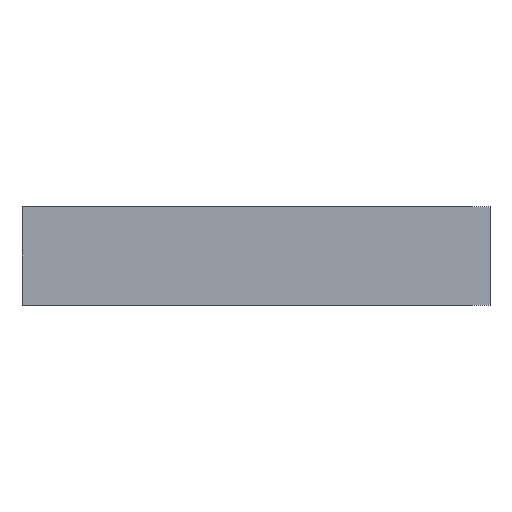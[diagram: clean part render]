
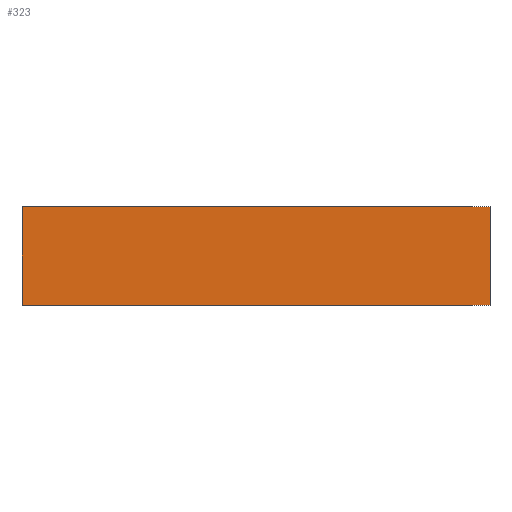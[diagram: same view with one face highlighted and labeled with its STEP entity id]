
A CAD part, front view. The second image highlights one B-rep face of the part: STEP entity #323.
In plain terms, the highlighted planar face has unit normal (0, -1, 0).
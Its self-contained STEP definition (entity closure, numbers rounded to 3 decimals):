
#9 = EDGE_CURVE ( 'NONE', #546, #581, #217, .T. ) ;
#25 = AXIS2_PLACEMENT_3D ( 'NONE', #481, #473, #471 ) ;
#34 = EDGE_CURVE ( 'NONE', #575, #561, #184, .T. ) ;
#61 = EDGE_CURVE ( 'NONE', #546, #575, #146, .T. ) ;
#66 = EDGE_CURVE ( 'NONE', #581, #561, #140, .T. ) ;
#127 = FACE_OUTER_BOUND ( 'NONE', #240, .T. ) ;
#139 = VECTOR ( 'NONE', #498, 1000. ) ;
#140 = LINE ( 'NONE', #500, #139 ) ;
#145 = VECTOR ( 'NONE', #507, 1000. ) ;
#146 = LINE ( 'NONE', #508, #145 ) ;
#183 = VECTOR ( 'NONE', #565, 1000. ) ;
#184 = LINE ( 'NONE', #566, #183 ) ;
#212 = VECTOR ( 'NONE', #430, 1000. ) ;
#217 = LINE ( 'NONE', #447, #212 ) ;
#240 = EDGE_LOOP ( 'NONE', ( #291, #292, #293, #294 ) ) ;
#291 = ORIENTED_EDGE ( 'NONE', *, *, #66, .T. ) ;
#292 = ORIENTED_EDGE ( 'NONE', *, *, #34, .F. ) ;
#293 = ORIENTED_EDGE ( 'NONE', *, *, #61, .F. ) ;
#294 = ORIENTED_EDGE ( 'NONE', *, *, #9, .T. ) ;
#323 = ADVANCED_FACE ( 'NONE', ( #127 ), #485, .F. ) ;
#373 = CARTESIAN_POINT ( 'NONE',  ( -154., 0., 0. ) ) ;
#378 = CARTESIAN_POINT ( 'NONE',  ( 154., 0., 65. ) ) ;
#383 = CARTESIAN_POINT ( 'NONE',  ( 154., 0., 0. ) ) ;
#390 = CARTESIAN_POINT ( 'NONE',  ( -154., 0., 65. ) ) ;
#430 = DIRECTION ( 'NONE',  ( 0., 0., -1. ) ) ;
#447 = CARTESIAN_POINT ( 'NONE',  ( -154., 0., 65. ) ) ;
#471 = DIRECTION ( 'NONE',  ( -1., 0., 0. ) ) ;
#473 = DIRECTION ( 'NONE',  ( 0., 1., 0. ) ) ;
#481 = CARTESIAN_POINT ( 'NONE',  ( -154., 0., 65. ) ) ;
#485 = PLANE ( 'NONE',  #25 ) ;
#498 = DIRECTION ( 'NONE',  ( 1., 0., 0. ) ) ;
#500 = CARTESIAN_POINT ( 'NONE',  ( -154., 0., 0. ) ) ;
#507 = DIRECTION ( 'NONE',  ( 1., 0., 0. ) ) ;
#508 = CARTESIAN_POINT ( 'NONE',  ( -154., 0., 65. ) ) ;
#546 = VERTEX_POINT ( 'NONE', #390 ) ;
#561 = VERTEX_POINT ( 'NONE', #383 ) ;
#565 = DIRECTION ( 'NONE',  ( 0., 0., -1. ) ) ;
#566 = CARTESIAN_POINT ( 'NONE',  ( 154., 0., 65. ) ) ;
#575 = VERTEX_POINT ( 'NONE', #378 ) ;
#581 = VERTEX_POINT ( 'NONE', #373 ) ;
